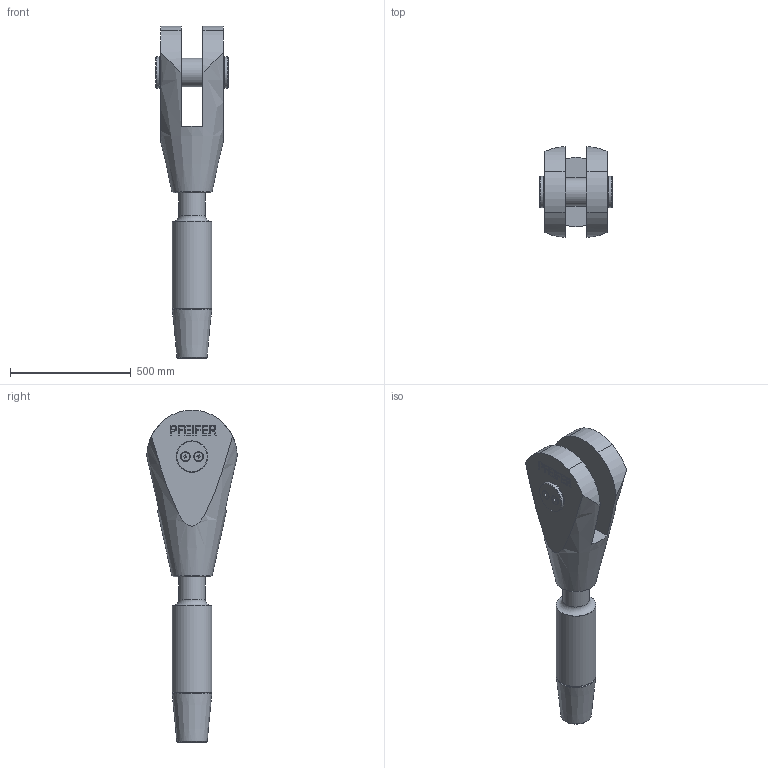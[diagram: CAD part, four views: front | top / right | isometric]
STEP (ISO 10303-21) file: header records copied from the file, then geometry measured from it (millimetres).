
FILE_DESCRIPTION(/* description */ (''),/* implementation_level */ '2;1');
FILE_NAME(/* name */ 'G:\Engineering\700 CAD\Internet-PX-1-step-igs-dxf\520-GAK-ADA-Arbeitsdateien\520-110-GAK-ADA.stp',/* time_stamp */ '2020-07-03T13:16:11+02:00',/* author */ ('schwarz'),/* organization */ (''),/* preprocessor_version */ 'ST-DEVELOPER v16.1',/* originating_system */ 'Autodesk Inventor 2016',/* authorisation */ '');
FILE_SCHEMA (('AUTOMOTIVE_DESIGN { 1 0 10303 214 3 1 1 }'));
Length unit declared in the file: centimetre
Products named in the file (1): 520-110-GAK-ADA-Kunde
Bounding box: 302 x 374.92 x 1376 mm (x, y, z)
Volume: 43153536.1 mm3; surface area: 1459872.7 mm2
Topology: 2 solids, 10 shells, 248 faces, 628 edges, 415 vertices
Faces by surface type: plane 166, cone 30, cylinder 30, bspline 21, torus 1
Full cylindrical faces by diameter (mm): 17.294 x4, 20 x4, 22 x4, 36.05 x4, 110 x1, 114 x1, 118 x1, 121 x2, 130 x2, 165 x1
Entity records: 7243 total; most frequent: CARTESIAN_POINT 1544, ORIENTED_EDGE 1084, DIRECTION 1004, EDGE_CURVE 542, LINE 384, VECTOR 384, VERTEX_POINT 384, EDGE_LOOP 330
